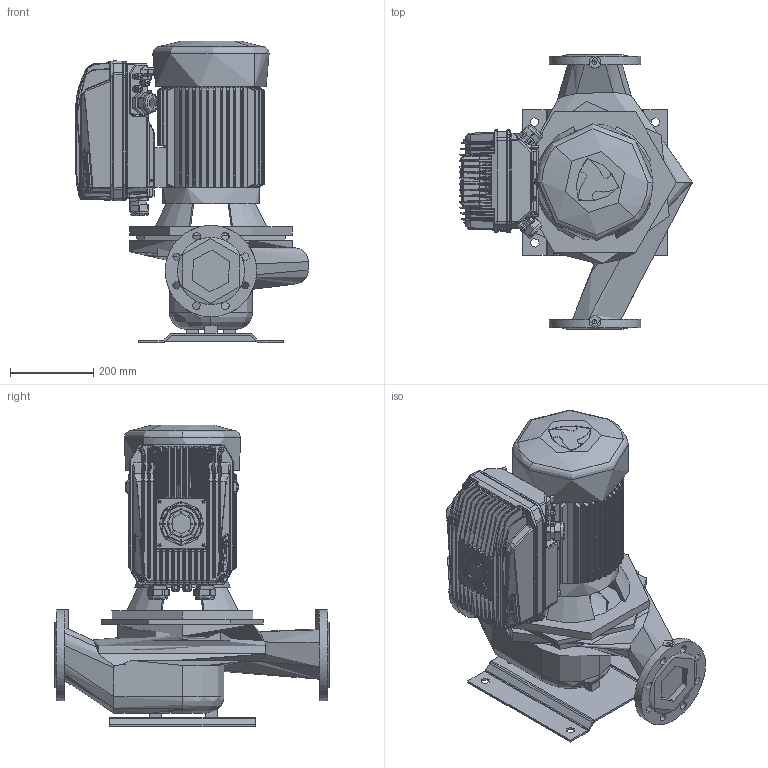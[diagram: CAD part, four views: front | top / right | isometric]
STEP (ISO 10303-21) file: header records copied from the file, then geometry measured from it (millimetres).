
FILE_DESCRIPTION(('STEP AP214'),'1');
FILE_NAME('export.stp','2022-09-07T07:14:21',(' '),(' '),'Spatial InterOp 3D',' ',' ');
FILE_SCHEMA(('AUTOMOTIVE_DESIGN { 1 0 10303 214 1 1 1 1 }'));
Length unit declared in the file: millimetre
Products named in the file (13): W_L100S4MDKP133; V_TLL100SAL1202; P100496; P100495; P100342; Mida_414-418; V_MOKN133; RU_OKN_133; TSUOJA_OKN_132_133; KYTKOTELO_OKN_100_133; V_MKP133-G2-F31; V_EKF31OKN132133; V_PPL100S
Assembly tree (13 placements, depth 4):
  W_L100S4MDKP133
    V_TLL100SAL1202
    P100496
      P100495  x2
      P100342
    Mida_414-418
    V_MKP133-G2-F31
      V_MOKN133
        RU_OKN_133
        TSUOJA_OKN_132_133
        KYTKOTELO_OKN_100_133
      V_EKF31OKN132133
    V_PPL100S
Bounding box: 561.2 x 660 x 726.5 mm (x, y, z)
Topology: 57 solids, 62 shells, 6079 faces, 15325 edges, 9286 vertices
Faces by surface type: cylinder 2220, plane 1938, bspline 1189, cone 434, torus 253, sphere 45
Entity records: 500675 total; most frequent: CARTESIAN_POINT 312720, ORIENTED_EDGE 30076, DIRECTION 23377, EDGE_CURVE 15038, VERTEX_POINT 9275, AXIS2_PLACEMENT_3D 8542, STYLED_ITEM 7559, PRESENTATION_STYLE_ASSIGNMENT 7559
